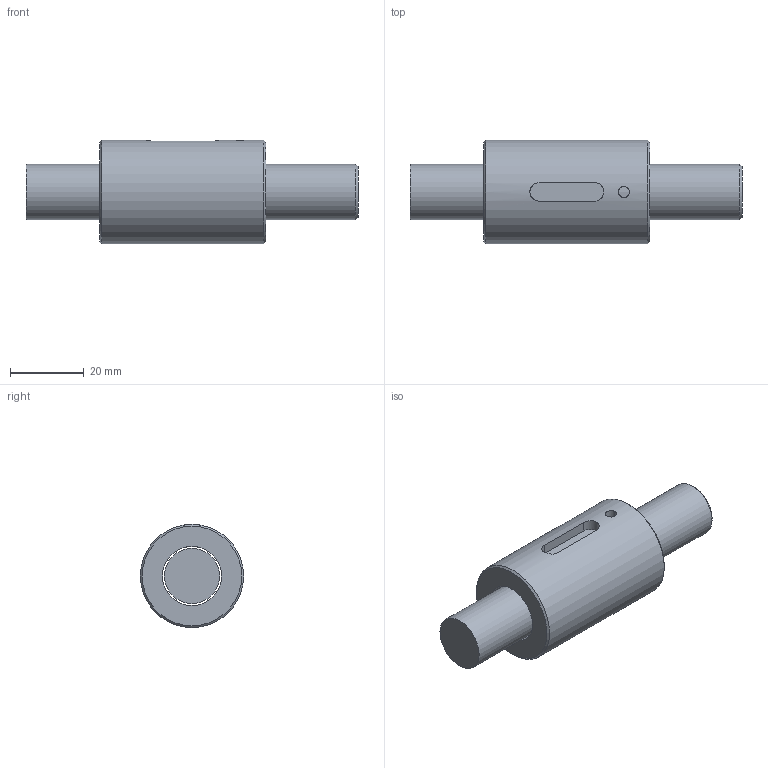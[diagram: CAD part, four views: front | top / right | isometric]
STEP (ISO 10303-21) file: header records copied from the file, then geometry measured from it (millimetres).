
FILE_DESCRIPTION (( 'STEP AP203' ), '1' );
FILE_NAME ('SCNH1605.STEP', '2023-07-07T08:33:01', ( '' ), ( '' ), 'SwSTEP 2.0', 'SolidWorks 2022', '' );
FILE_SCHEMA (( 'CONFIG_CONTROL_DESIGN' ));
Length unit declared in the file: millimetre
Products named in the file (1): SCNH1605
Bounding box: 90 x 28 x 28 mm (x, y, z)
Volume: 34212.1 mm3; surface area: 11742.7 mm2
Topology: 2 solids, 2 shells, 17 faces, 35 edges, 23 vertices
Faces by surface type: plane 7, cylinder 5, cone 3, bspline 2
Full cylindrical faces by diameter (mm): 15 x1, 16 x1, 28 x1
Entity records: 794 total; most frequent: CARTESIAN_POINT 391, DIRECTION 64, ORIENTED_EDGE 54, EDGE_LOOP 28, AXIS2_PLACEMENT_3D 27, EDGE_CURVE 27, VERTEX_POINT 21, FACE_OUTER_BOUND 20
